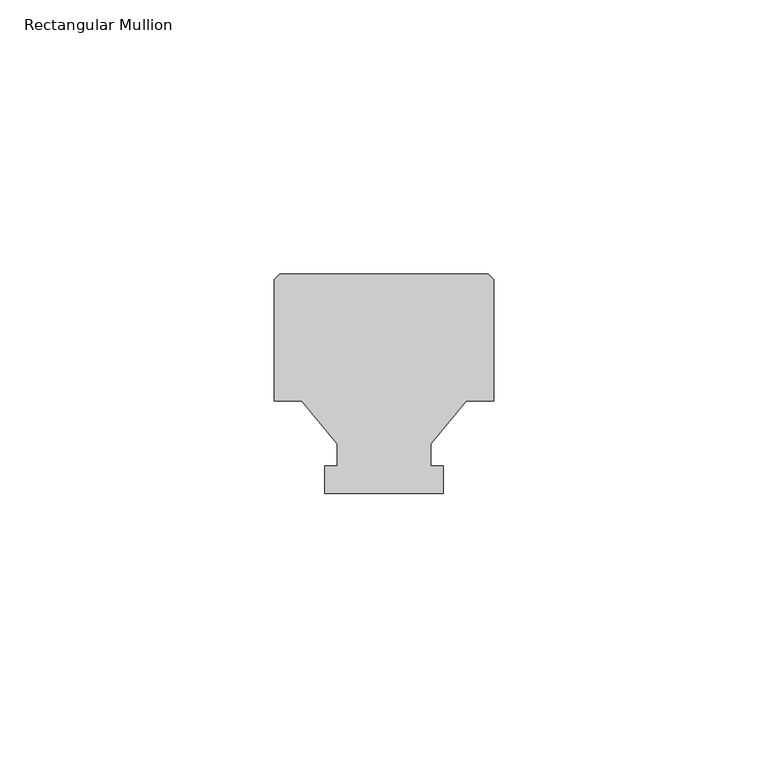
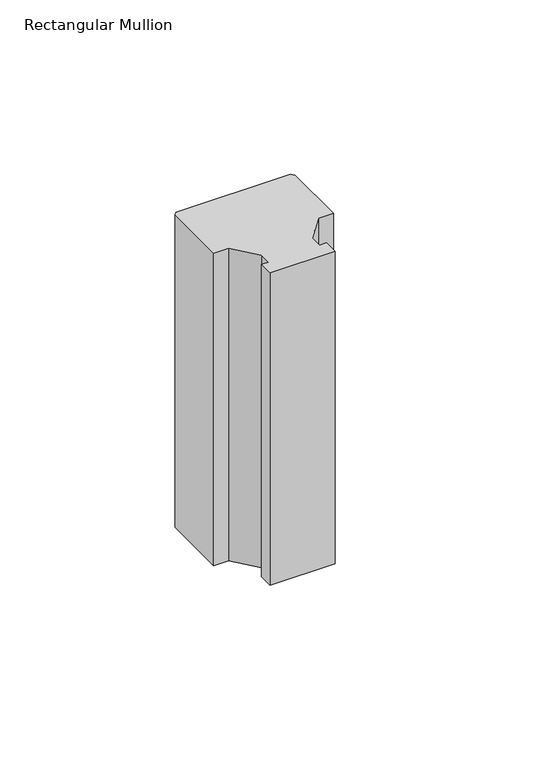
"""IFC4 building model written with IfcOpenShell, lengths in millimetres: member geometry, Rectangular Mullion : Batten_Timber_Modinex_Austratus_Grid_Fin_40x40_AlaskanYellowCedar."""

from ifc_helpers import new_model, si_unit, frame, origin, place, context, project, spatial, polyline, outline, extrude, source, transform, mapped, element, save


def rectangular_mullion_dacc5c26(model_context):
    return source(origin(), model_context, "Body", "SweptSolid", [
        extrude(outline(polyline([(-40.0, 16.8079815), (-40.0, 39.0), (-39.0, 40.0), (-1.0, 40.0), (0.0, 39.0), (0.0, 16.8079815), (-5.0, 16.8079815), (-11.5, 9.0), (-11.5, 5.0), (-9.187805, 5.0), (-9.187805, 0.0), (-30.812195, 0.0), (-30.812195, 5.0), (-28.5, 5.0), (-28.5, 9.0), (-35.0, 16.8079815), (-40.0, 16.8079815)])), frame((0.0, 0.0, -110.0), z_axis=(0.0, 0.0, 1.0), x_axis=(1.0, 0.0, 0.0)), (0.0, 0.0, 1.0), 110.0),
    ])


if __name__ == "__main__":
    model = new_model("IFC4")
    model_context = context("Model", 3, world=origin())
    ifc_project = project(units=[si_unit("LENGTHUNIT", "METRE", prefix="MILLI")], contexts=[model_context])
    site = spatial("IfcSite", under=ifc_project)
    building = spatial("IfcBuilding", under=site)
    placement = place(None, origin())
    rectangular_mullion_shape = rectangular_mullion_dacc5c26(model_context)
    element("IfcMember", 1, ObjectType="Rectangular Mullion : Batten_Timber_Modinex_Austratus_Grid_Fin_40x40_AlaskanYellowCedar", at=placement, inside=building, context=model_context, shape_type="MappedRepresentation", body=[
        mapped(rectangular_mullion_shape, transform((0.0, 0.0, 0.0), x_axis=(1.0, 0.0, 0.0), y_axis=(0.0, 1.0, 0.0), z_axis=(0.0, 0.0, 1.0))),
    ])
    save(model, "model.ifc")
